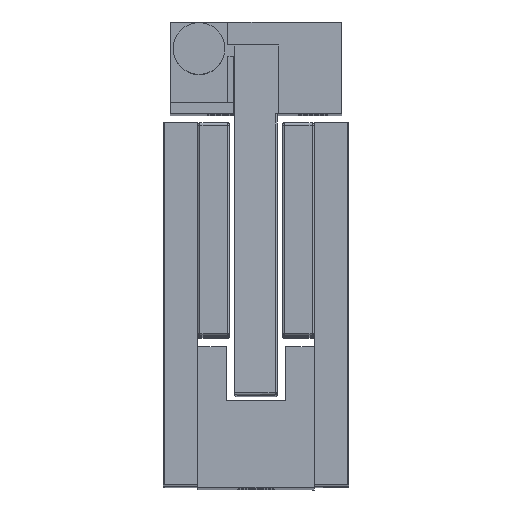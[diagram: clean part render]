
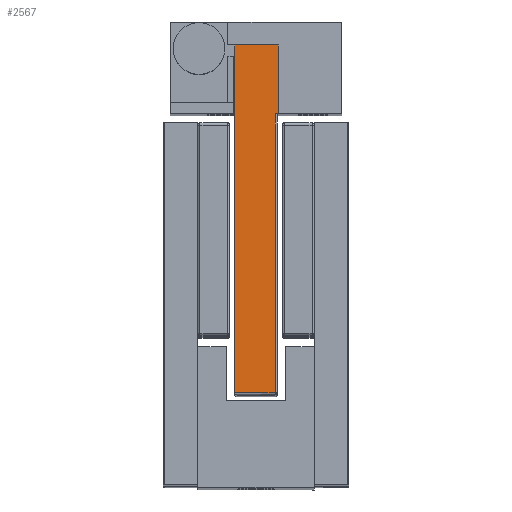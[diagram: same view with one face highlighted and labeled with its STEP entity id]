
A CAD part, top view. The second image highlights one B-rep face of the part: STEP entity #2567.
In plain terms, the highlighted planar face has unit normal (0.035, 0, 0.999) as drawn and (-0.035, 0.999, 0) by its records, which use the part's own axes.
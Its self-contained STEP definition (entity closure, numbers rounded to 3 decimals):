
#262 = EDGE_CURVE ( 'NONE', #6852, #6724, #9083, .T. ) ;
#505 = EDGE_CURVE ( 'NONE', #4804, #6724, #4591, .T. ) ;
#530 = EDGE_CURVE ( 'NONE', #7079, #7067, #1478, .T. ) ;
#877 = ORIENTED_EDGE ( 'NONE', *, *, #530, .T. ) ;
#939 = CARTESIAN_POINT ( 'NONE',  ( 0.193, 48.378, 36.65 ) ) ;
#1184 = VERTEX_POINT ( 'NONE', #9255 ) ;
#1270 = LINE ( 'NONE', #9250, #7596 ) ;
#1478 = LINE ( 'NONE', #4005, #6622 ) ;
#1837 = ORIENTED_EDGE ( 'NONE', *, *, #4251, .T. ) ;
#2127 = VECTOR ( 'NONE', #6047, 1000. ) ;
#2567 = ADVANCED_FACE ( 'NONE', ( #9218 ), #7755, .T. ) ;
#3652 = CARTESIAN_POINT ( 'NONE',  ( 3.7, 48.5, 12.4 ) ) ;
#3831 = VERTEX_POINT ( 'NONE', #8966 ) ;
#3841 = CARTESIAN_POINT ( 'NONE',  ( 3.7, 48.5, -64.537 ) ) ;
#3961 = VECTOR ( 'NONE', #8592, 1000. ) ;
#4005 = CARTESIAN_POINT ( 'NONE',  ( 3.7, 48.5, 16.675 ) ) ;
#4251 = EDGE_CURVE ( 'NONE', #7067, #4804, #9712, .T. ) ;
#4266 = AXIS2_PLACEMENT_3D ( 'NONE', #9438, #10317, #7216 ) ;
#4329 = ORIENTED_EDGE ( 'NONE', *, *, #4433, .F. ) ;
#4333 = VECTOR ( 'NONE', #7536, 1000. ) ;
#4433 = EDGE_CURVE ( 'NONE', #7079, #1184, #8300, .T. ) ;
#4591 = LINE ( 'NONE', #7691, #4333 ) ;
#4804 = VERTEX_POINT ( 'NONE', #6790 ) ;
#5185 = ORIENTED_EDGE ( 'NONE', *, *, #8967, .T. ) ;
#5436 = DIRECTION ( 'NONE',  ( 0., 0., 1. ) ) ;
#5445 = CARTESIAN_POINT ( 'NONE',  ( -0.1, 48.367, 16.675 ) ) ;
#5951 = CARTESIAN_POINT ( 'NONE',  ( 3.7, 48.5, 37.65 ) ) ;
#6047 = DIRECTION ( 'NONE',  ( -0.999, -0.035, 0. ) ) ;
#6314 = LINE ( 'NONE', #5445, #9549 ) ;
#6622 = VECTOR ( 'NONE', #9739, 1000. ) ;
#6715 = ORIENTED_EDGE ( 'NONE', *, *, #9236, .T. ) ;
#6724 = VERTEX_POINT ( 'NONE', #7274 ) ;
#6790 = CARTESIAN_POINT ( 'NONE',  ( 0.193, 48.378, 12.4 ) ) ;
#6852 = VERTEX_POINT ( 'NONE', #8314 ) ;
#7067 = VERTEX_POINT ( 'NONE', #3652 ) ;
#7079 = VERTEX_POINT ( 'NONE', #5951 ) ;
#7216 = DIRECTION ( 'NONE',  ( 0., 0., 1. ) ) ;
#7274 = CARTESIAN_POINT ( 'NONE',  ( 0.193, 48.378, 36.65 ) ) ;
#7529 = EDGE_LOOP ( 'NONE', ( #9858, #6715, #5185, #4329, #877, #1837, #7787 ) ) ;
#7536 = DIRECTION ( 'NONE',  ( 0., 0., 1. ) ) ;
#7596 = VECTOR ( 'NONE', #7647, 1000. ) ;
#7647 = DIRECTION ( 'NONE',  ( 0.999, 0.035, 0. ) ) ;
#7691 = CARTESIAN_POINT ( 'NONE',  ( 0.193, 48.378, 16.675 ) ) ;
#7755 = PLANE ( 'NONE',  #4266 ) ;
#7787 = ORIENTED_EDGE ( 'NONE', *, *, #505, .T. ) ;
#8300 = LINE ( 'NONE', #3841, #8923 ) ;
#8314 = CARTESIAN_POINT ( 'NONE',  ( -0.1, 48.367, 36.65 ) ) ;
#8592 = DIRECTION ( 'NONE',  ( 0.999, 0.035, 0. ) ) ;
#8732 = DIRECTION ( 'NONE',  ( 0., 0., 1. ) ) ;
#8923 = VECTOR ( 'NONE', #5436, 1000. ) ;
#8966 = CARTESIAN_POINT ( 'NONE',  ( -0.1, 48.367, 42.65 ) ) ;
#8967 = EDGE_CURVE ( 'NONE', #3831, #1184, #1270, .T. ) ;
#9083 = LINE ( 'NONE', #939, #3961 ) ;
#9218 = FACE_OUTER_BOUND ( 'NONE', #7529, .T. ) ;
#9236 = EDGE_CURVE ( 'NONE', #6852, #3831, #6314, .T. ) ;
#9250 = CARTESIAN_POINT ( 'NONE',  ( 3.7, 48.5, 42.65 ) ) ;
#9255 = CARTESIAN_POINT ( 'NONE',  ( 3.7, 48.5, 42.65 ) ) ;
#9438 = CARTESIAN_POINT ( 'NONE',  ( 3.7, 48.5, 16.675 ) ) ;
#9549 = VECTOR ( 'NONE', #8732, 1000. ) ;
#9712 = LINE ( 'NONE', #10346, #2127 ) ;
#9739 = DIRECTION ( 'NONE',  ( 0., 0., -1. ) ) ;
#9858 = ORIENTED_EDGE ( 'NONE', *, *, #262, .F. ) ;
#10317 = DIRECTION ( 'NONE',  ( -0.035, 0.999, 0. ) ) ;
#10346 = CARTESIAN_POINT ( 'NONE',  ( 0.193, 48.378, 12.4 ) ) ;
